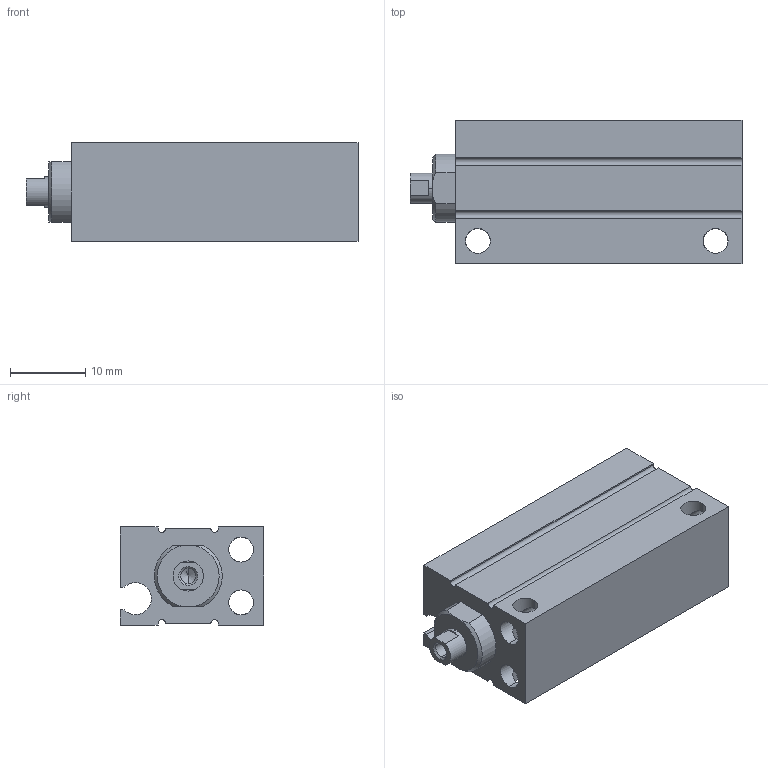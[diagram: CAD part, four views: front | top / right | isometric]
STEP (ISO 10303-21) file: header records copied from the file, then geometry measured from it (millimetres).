
FILE_DESCRIPTION (( 'STEP AP203' ), '1' );
FILE_NAME ('CLJB6-25.STEP', '2020-07-30T18:43:27', ( '' ), ( '' ), 'SwSTEP 2.0', 'SolidWorks 2019', '' );
FILE_SCHEMA (( 'CONFIG_CONTROL_DESIGN' ));
Length unit declared in the file: millimetre
Products named in the file (1): CLJB6-25
Bounding box: 44 x 19 x 13 mm (x, y, z)
Volume: 7652.8 mm3; surface area: 5424 mm2
Topology: 2 solids, 2 shells, 92 faces, 240 edges, 145 vertices
Faces by surface type: cylinder 49, plane 29, cone 14
Entity records: 2863 total; most frequent: CARTESIAN_POINT 580, ORIENTED_EDGE 468, DIRECTION 462, EDGE_CURVE 234, AXIS2_PLACEMENT_3D 171, VERTEX_POINT 145, VECTOR 120, LINE 120
